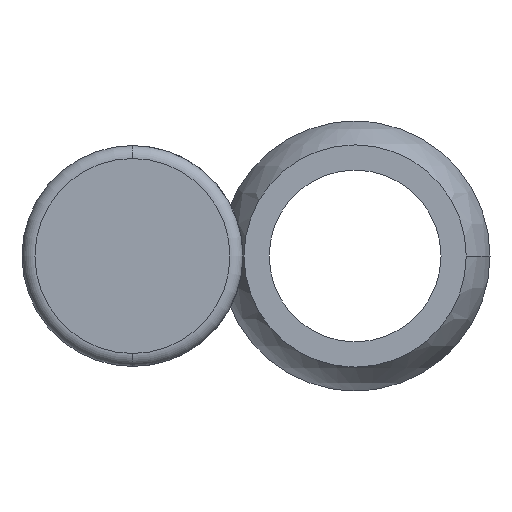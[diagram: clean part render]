
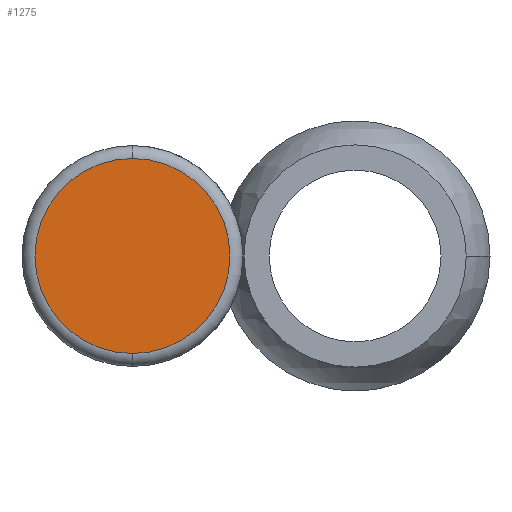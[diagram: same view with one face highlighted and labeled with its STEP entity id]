
A CAD part, front view. The second image highlights one B-rep face of the part: STEP entity #1275.
In plain terms, the highlighted planar face has unit normal (0, -1, 0).
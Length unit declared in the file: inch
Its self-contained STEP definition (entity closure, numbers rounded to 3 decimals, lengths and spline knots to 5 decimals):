
#19 = EDGE_CURVE ( 'NONE', #334, #485, #736, .T. ) ;
#77 = EDGE_LOOP ( 'NONE', ( #632, #1170 ) ) ;
#84 = DIRECTION ( 'NONE',  ( 0., 0., 1. ) ) ;
#164 = CARTESIAN_POINT ( 'NONE',  ( 0., -0.945, -0.22591 ) ) ;
#209 = PLANE ( 'NONE',  #829 ) ;
#273 = CIRCLE ( 'NONE', #1124, 0.22591 ) ;
#319 = CARTESIAN_POINT ( 'NONE',  ( 0., -0.945, 0. ) ) ;
#334 = VERTEX_POINT ( 'NONE', #1094 ) ;
#359 = DIRECTION ( 'NONE',  ( 0., 0., 1. ) ) ;
#422 = EDGE_CURVE ( 'NONE', #485, #334, #273, .T. ) ;
#475 = FACE_OUTER_BOUND ( 'NONE', #77, .T. ) ;
#485 = VERTEX_POINT ( 'NONE', #164 ) ;
#583 = CARTESIAN_POINT ( 'NONE',  ( 0., -0.945, 0. ) ) ;
#632 = ORIENTED_EDGE ( 'NONE', *, *, #19, .T. ) ;
#721 = DIRECTION ( 'NONE',  ( 0., 0., 1. ) ) ;
#736 = CIRCLE ( 'NONE', #848, 0.22591 ) ;
#829 = AXIS2_PLACEMENT_3D ( 'NONE', #319, #1049, #721 ) ;
#848 = AXIS2_PLACEMENT_3D ( 'NONE', #583, #1020, #84 ) ;
#871 = DIRECTION ( 'NONE',  ( 0., -1., 0. ) ) ;
#984 = CARTESIAN_POINT ( 'NONE',  ( 0., -0.945, 0. ) ) ;
#1020 = DIRECTION ( 'NONE',  ( 0., -1., 0. ) ) ;
#1049 = DIRECTION ( 'NONE',  ( 0., 1., 0. ) ) ;
#1094 = CARTESIAN_POINT ( 'NONE',  ( 0., -0.945, 0.22591 ) ) ;
#1124 = AXIS2_PLACEMENT_3D ( 'NONE', #984, #871, #359 ) ;
#1170 = ORIENTED_EDGE ( 'NONE', *, *, #422, .T. ) ;
#1275 = ADVANCED_FACE ( 'NONE', ( #475 ), #209, .F. ) ;
